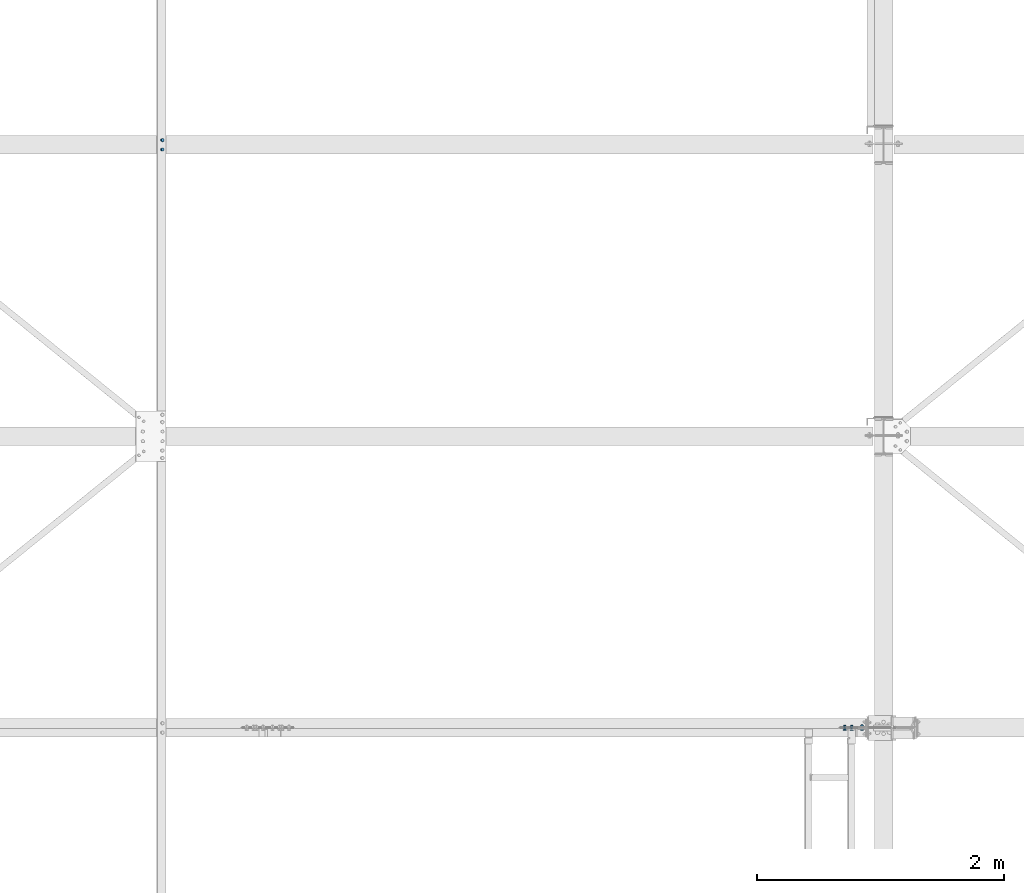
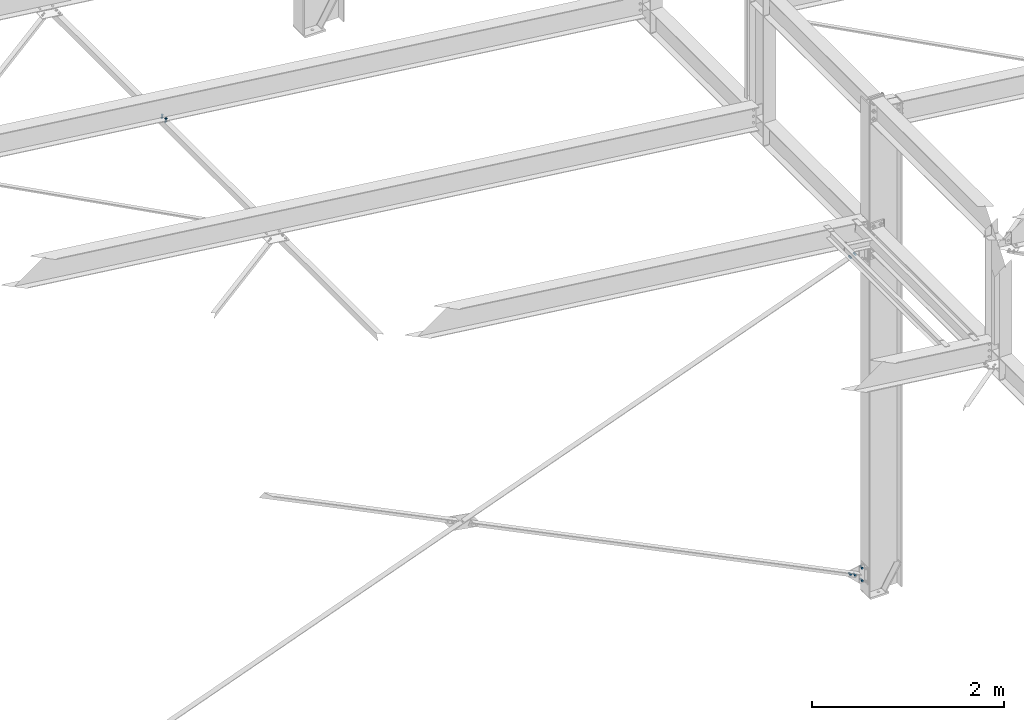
# One storey, part 129 of 3134: 4 mechanical fasteners, 4 elements without a shape of their own.
"""IFC2X3 building model written with IfcOpenShell, lengths in millimetres."""

from ifc_helpers import new_model, si_unit, frame, origin_with_axes, place, context, subcontext, project, spatial, faceted_brep, source, transform, mapped, material, type_object, element, aggregate, save


model = new_model("IFC2X3")

# Units and contexts
model_context = context("Model", 3, precision=1e-05, world=origin_with_axes())
body_context = subcontext(model_context, "Body", "Model", "MODEL_VIEW")
ifc_project = project(units=[si_unit("LENGTHUNIT", "METRE", prefix="MILLI"), si_unit("AREAUNIT", "SQUARE_METRE"), si_unit("VOLUMEUNIT", "CUBIC_METRE"), si_unit("MASSUNIT", "GRAM", prefix="KILO"), si_unit("TIMEUNIT", "SECOND"), si_unit("PLANEANGLEUNIT", "RADIAN"), si_unit("SOLIDANGLEUNIT", "STERADIAN"), si_unit("THERMODYNAMICTEMPERATUREUNIT", "DEGREE_CELSIUS"), si_unit("LUMINOUSINTENSITYUNIT", "LUMEN")], contexts=[model_context])

# Site, building, storey
site_placement = place(None, origin_with_axes())
site = spatial("IfcSite", under=ifc_project, at=site_placement, CompositionType="ELEMENT")
building_placement = place(site_placement, origin_with_axes())
building = spatial("IfcBuilding", under=site, at=building_placement, Name="Undefined", CompositionType="ELEMENT")
storey_placement = place(building_placement, origin_with_axes())
storey = spatial("IfcBuildingStorey", under=building, at=storey_placement, Name="Undefined", CompositionType="ELEMENT", Elevation=0.0)

# Assembly, mechanical fastener
assembly_1_placement = place(storey_placement, origin_with_axes())
assembly_1 = element("IfcElementAssembly", 1, at=assembly_1_placement, inside=storey, AssemblyPlace="NOTDEFINED", PredefinedType="RIGID_FRAME")
ifc_material = material(Name="8.8")
mechanical_fastener_type = type_object("IfcMechanicalFastenerType", Name="Bolt assembly")
shared_shape_1 = source(origin_with_axes(), body_context, "Body", "Brep", [
    faceted_brep([(13.856406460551, -19.199990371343, 0.0), (6.92820323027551, -19.199990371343, 12.0), (-6.92820323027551, -19.199990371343, 12.0), (-13.856406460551, -19.199990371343, 1.69692038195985e-15), (-6.92820323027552, -19.199990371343, -12.0), (6.9282032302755, -19.199990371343, -12.0), (6.9282032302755, -9.19999037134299, -12.0), (-6.92820323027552, -9.19999037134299, -12.0), (-13.856406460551, -9.19999037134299, 1.69692038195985e-15), (-6.92820323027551, -9.19999037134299, 12.0), (6.92820323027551, -9.19999037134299, 12.0), (13.856406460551, -9.19999037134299, 0.0), (8.0, -9.19999037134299, 0.0), (6.92820323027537, -9.19999037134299, 4.00000000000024), (3.99999999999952, -9.19999037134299, 6.92820323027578), (-8.29068785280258e-13, -9.19999037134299, 8.0), (-4.00000000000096, -9.19999037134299, 6.92820323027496), (-6.9282032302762, -9.19999037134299, 3.99999999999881), (-8.0, -9.19999037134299, -1.65813757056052e-12), (-6.92820323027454, -9.19999037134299, -4.00000000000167), (-3.99999999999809, -9.19999037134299, -6.92820323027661), (2.47832457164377e-12, -9.19999037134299, -8.0), (4.00000000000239, -9.19999037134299, -6.92820323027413), (6.92820323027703, -9.19999037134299, -3.99999999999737), (6.92820323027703, 35.8000002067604, -3.99999999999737), (4.00000000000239, 35.8000002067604, -6.92820323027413), (2.47832457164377e-12, 35.8000002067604, -8.0), (-3.99999999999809, 35.8000002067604, -6.92820323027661), (-6.92820323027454, 35.8000002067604, -4.00000000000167), (-8.0, 35.8000002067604, -1.65813757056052e-12), (-6.9282032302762, 35.8000002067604, 3.99999999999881), (-4.00000000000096, 35.8000002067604, 6.92820323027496), (-8.29068785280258e-13, 35.8000002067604, 8.0), (3.99999999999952, 35.8000002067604, 6.92820323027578), (6.92820323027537, 35.8000002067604, 4.00000000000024), (8.0, 35.8000002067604, 0.0), (13.856406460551, 14.9999995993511, 0.0), (6.92820323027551, 14.9999995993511, 12.0), (-6.92820323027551, 14.9999995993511, 12.0), (-13.856406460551, 14.9999995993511, 1.69692038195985e-15), (-6.92820323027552, 14.9999995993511, -12.0), (6.9282032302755, 14.9999995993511, -12.0), (6.9282032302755, 27.9999995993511, -12.0), (-6.92820323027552, 27.9999995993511, -12.0), (-13.856406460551, 27.9999995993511, 1.69692038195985e-15), (-6.92820323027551, 27.9999995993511, 12.0), (6.92820323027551, 27.9999995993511, 12.0), (13.856406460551, 27.9999995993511, 0.0)], [[[0, 1, 2, 3, 4, 5]], [[6, 7, 8, 9, 10, 11]], [[0, 11, 10, 1]], [[1, 10, 9, 2]], [[2, 9, 8, 3]], [[3, 8, 7, 4]], [[4, 7, 6, 5]], [[5, 6, 11, 0]], [[12, 13, 14, 15, 16, 17, 18, 19, 20, 21, 22, 23]], [[24, 25, 26, 27, 28, 29, 30, 31, 32, 33, 34, 35]], [[12, 35, 34, 13]], [[13, 34, 33, 14]], [[14, 33, 32, 15]], [[15, 32, 31, 16]], [[16, 31, 30, 17]], [[17, 30, 29, 18]], [[18, 29, 28, 19]], [[19, 28, 27, 20]], [[20, 27, 26, 21]], [[21, 26, 25, 22]], [[22, 25, 24, 23]], [[23, 24, 35, 12]], [[36, 37, 38, 39, 40, 41]], [[42, 43, 44, 45, 46, 47]], [[36, 47, 46, 37]], [[37, 46, 45, 38]], [[38, 45, 44, 39]], [[39, 44, 43, 40]], [[40, 43, 42, 41]], [[41, 42, 47, 36]]]),
    faceted_brep([(9.0, -9.09999037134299, 0.0), (7.79422863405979, -9.09999037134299, 4.50000000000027), (4.49999999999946, -9.09999037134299, 7.79422863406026), (-9.3270238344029e-13, -9.09999037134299, 9.0), (-4.50000000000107, -9.09999037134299, 7.79422863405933), (-7.79422863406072, -9.09999037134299, 4.49999999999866), (-9.0, -9.09999037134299, -1.86540476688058e-12), (-7.79422863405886, -9.09999037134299, -4.50000000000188), (-4.49999999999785, -9.09999037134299, -7.79422863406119), (2.78811514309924e-12, -9.09999037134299, -9.0), (4.50000000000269, -9.09999037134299, -7.7942286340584), (7.79422863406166, -9.09999037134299, -4.49999999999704), (7.79422863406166, 0.100000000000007, -4.49999999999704), (4.50000000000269, 0.100000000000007, -7.7942286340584), (2.78811514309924e-12, 0.100000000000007, -9.0), (-4.49999999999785, 0.100000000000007, -7.79422863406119), (-7.79422863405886, 0.100000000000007, -4.50000000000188), (-9.0, 0.100000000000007, -1.86540476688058e-12), (-7.79422863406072, 0.100000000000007, 4.49999999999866), (-4.50000000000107, 0.100000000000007, 7.79422863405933), (-9.3270238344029e-13, 0.100000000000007, 9.0), (4.49999999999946, 0.100000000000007, 7.79422863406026), (7.79422863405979, 0.100000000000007, 4.50000000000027), (9.0, 0.100000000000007, 0.0), (9.0, 7.9, 0.0), (7.79422863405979, 7.9, 4.50000000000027), (4.49999999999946, 7.9, 7.79422863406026), (-9.3270238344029e-13, 7.9, 9.0), (-4.50000000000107, 7.9, 7.79422863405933), (-7.79422863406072, 7.9, 4.49999999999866), (-9.0, 7.9, -1.86540476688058e-12), (-7.79422863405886, 7.9, -4.50000000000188), (-4.49999999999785, 7.9, -7.79422863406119), (2.78811514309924e-12, 7.9, -9.0), (4.50000000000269, 7.9, -7.7942286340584), (7.79422863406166, 7.9, -4.49999999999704), (7.79422863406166, 14.9999995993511, -4.49999999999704), (4.50000000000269, 14.9999995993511, -7.7942286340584), (2.78811514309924e-12, 14.9999995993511, -9.0), (-4.49999999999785, 14.9999995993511, -7.79422863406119), (-7.79422863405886, 14.9999995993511, -4.50000000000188), (-9.0, 14.9999995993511, -1.86540476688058e-12), (-7.79422863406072, 14.9999995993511, 4.49999999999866), (-4.50000000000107, 14.9999995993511, 7.79422863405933), (-9.3270238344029e-13, 14.9999995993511, 9.0), (4.49999999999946, 14.9999995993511, 7.79422863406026), (7.79422863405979, 14.9999995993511, 4.50000000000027), (9.0, 14.9999995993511, 0.0)], [[[0, 1, 2, 3, 4, 5, 6, 7, 8, 9, 10, 11]], [[12, 13, 14, 15, 16, 17, 18, 19, 20, 21, 22, 23]], [[0, 23, 22, 1]], [[1, 22, 21, 2]], [[2, 21, 20, 3]], [[3, 20, 19, 4]], [[4, 19, 18, 5]], [[5, 18, 17, 6]], [[6, 17, 16, 7]], [[7, 16, 15, 8]], [[8, 15, 14, 9]], [[9, 14, 13, 10]], [[10, 13, 12, 11]], [[11, 12, 23, 0]], [[24, 25, 26, 27, 28, 29, 30, 31, 32, 33, 34, 35]], [[36, 37, 38, 39, 40, 41, 42, 43, 44, 45, 46, 47]], [[24, 47, 46, 25]], [[25, 46, 45, 26]], [[26, 45, 44, 27]], [[27, 44, 43, 28]], [[28, 43, 42, 29]], [[29, 42, 41, 30]], [[30, 41, 40, 31]], [[31, 40, 39, 32]], [[32, 39, 38, 33]], [[33, 38, 37, 34]], [[34, 37, 36, 35]], [[35, 36, 47, 24]]]),
])
mechanical_fastener_1_placement = place(assembly_1_placement, frame((50037.984961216, 12332.0, 4806.73358921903), z_axis=(-0.992623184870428, 0.0, 0.121240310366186), x_axis=(0.0, 1.0, 0.0)))
mechanical_fastener_1 = element("IfcMechanicalFastener", 2, at=mechanical_fastener_1_placement, type_object=mechanical_fastener_type, material=ifc_material, Name="Bolt assembly", NominalDiameter=16.0, NominalLength=45.0, context=body_context, shape_type="MappedRepresentation", body=[
    mapped(shared_shape_1, transform((0.0, 0.0, 0.0))),
    mapped(shared_shape_1, transform((76.0, 0.0, 0.0))),
])
aggregate(assembly_1, [mechanical_fastener_1])

assembly_2_placement = place(storey_placement, origin_with_axes())
assembly_2 = element("IfcElementAssembly", 3, at=assembly_2_placement, inside=storey, AssemblyPlace="NOTDEFINED", PredefinedType="RIGID_FRAME")
shared_shape_2 = source(origin_with_axes(), body_context, "Body", "Brep", [
    faceted_brep([(13.856406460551, -21.0000017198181, 0.0), (6.92820323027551, -21.0000017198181, 12.0), (-6.92820323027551, -21.0000017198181, 12.0), (-13.856406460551, -21.0000017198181, 1.69692038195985e-15), (-6.92820323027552, -21.0000017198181, -12.0), (6.9282032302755, -21.0000017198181, -12.0), (6.9282032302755, -11.0000017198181, -12.0), (-6.92820323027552, -11.0000017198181, -12.0), (-13.856406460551, -11.0000017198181, 1.69692038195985e-15), (-6.92820323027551, -11.0000017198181, 12.0), (6.92820323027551, -11.0000017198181, 12.0), (13.856406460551, -11.0000017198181, 0.0), (8.0, -11.0000017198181, 0.0), (6.92820323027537, -11.0000017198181, 4.00000000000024), (3.99999999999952, -11.0000017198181, 6.92820323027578), (-8.29068785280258e-13, -11.0000017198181, 8.0), (-4.00000000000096, -11.0000017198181, 6.92820323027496), (-6.9282032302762, -11.0000017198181, 3.99999999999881), (-8.0, -11.0000017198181, -1.65813757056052e-12), (-6.92820323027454, -11.0000017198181, -4.00000000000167), (-3.99999999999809, -11.0000017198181, -6.92820323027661), (2.47832457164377e-12, -11.0000017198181, -8.0), (4.00000000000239, -11.0000017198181, -6.92820323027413), (6.92820323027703, -11.0000017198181, -3.99999999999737), (6.92820323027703, 29.0, -3.99999999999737), (4.00000000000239, 29.0, -6.92820323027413), (2.47832457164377e-12, 29.0, -8.0), (-3.99999999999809, 29.0, -6.92820323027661), (-6.92820323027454, 29.0, -4.00000000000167), (-8.0, 29.0, -1.65813757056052e-12), (-6.9282032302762, 29.0, 3.99999999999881), (-4.00000000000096, 29.0, 6.92820323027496), (-8.29068785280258e-13, 29.0, 8.0), (3.99999999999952, 29.0, 6.92820323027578), (6.92820323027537, 29.0, 4.00000000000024), (8.0, 29.0, 0.0), (13.856406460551, 10.9999982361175, 0.0), (6.92820323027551, 10.9999982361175, 12.0), (-6.92820323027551, 10.9999982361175, 12.0), (-13.856406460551, 10.9999982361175, 1.69692038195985e-15), (-6.92820323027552, 10.9999982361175, -12.0), (6.9282032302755, 10.9999982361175, -12.0), (6.9282032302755, 23.9999999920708, -12.0), (-6.92820323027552, 23.9999999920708, -12.0), (-13.856406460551, 23.9999999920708, 1.69692038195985e-15), (-6.92820323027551, 23.9999999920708, 12.0), (6.92820323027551, 23.9999999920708, 12.0), (13.856406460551, 23.9999999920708, 0.0)], [[[0, 1, 2, 3, 4, 5]], [[6, 7, 8, 9, 10, 11]], [[0, 11, 10, 1]], [[1, 10, 9, 2]], [[2, 9, 8, 3]], [[3, 8, 7, 4]], [[4, 7, 6, 5]], [[5, 6, 11, 0]], [[12, 13, 14, 15, 16, 17, 18, 19, 20, 21, 22, 23]], [[24, 25, 26, 27, 28, 29, 30, 31, 32, 33, 34, 35]], [[12, 35, 34, 13]], [[13, 34, 33, 14]], [[14, 33, 32, 15]], [[15, 32, 31, 16]], [[16, 31, 30, 17]], [[17, 30, 29, 18]], [[18, 29, 28, 19]], [[19, 28, 27, 20]], [[20, 27, 26, 21]], [[21, 26, 25, 22]], [[22, 25, 24, 23]], [[23, 24, 35, 12]], [[36, 37, 38, 39, 40, 41]], [[42, 43, 44, 45, 46, 47]], [[36, 47, 46, 37]], [[37, 46, 45, 38]], [[38, 45, 44, 39]], [[39, 44, 43, 40]], [[40, 43, 42, 41]], [[41, 42, 47, 36]]]),
    faceted_brep([(9.0, -3.99999624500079, 0.0), (7.79422863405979, -3.99999624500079, 4.50000000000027), (4.49999999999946, -3.99999624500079, 7.79422863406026), (-9.3270238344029e-13, -3.99999624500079, 9.0), (-4.50000000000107, -3.99999624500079, 7.79422863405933), (-7.79422863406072, -3.99999624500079, 4.49999999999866), (-9.0, -3.99999624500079, -1.86540476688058e-12), (-7.79422863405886, -3.99999624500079, -4.50000000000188), (-4.49999999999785, -3.99999624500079, -7.79422863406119), (2.78811514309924e-12, -3.99999624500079, -9.0), (4.50000000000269, -3.99999624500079, -7.7942286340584), (7.79422863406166, -3.99999624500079, -4.49999999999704), (7.79422863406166, 4.00000375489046, -4.49999999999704), (4.50000000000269, 4.00000375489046, -7.7942286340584), (2.78811514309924e-12, 4.00000375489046, -9.0), (-4.49999999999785, 4.00000375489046, -7.79422863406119), (-7.79422863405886, 4.00000375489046, -4.50000000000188), (-9.0, 4.00000375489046, -1.86540476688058e-12), (-7.79422863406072, 4.00000375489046, 4.49999999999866), (-4.50000000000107, 4.00000375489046, 7.79422863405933), (-9.3270238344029e-13, 4.00000375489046, 9.0), (4.49999999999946, 4.00000375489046, 7.79422863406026), (7.79422863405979, 4.00000375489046, 4.50000000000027), (9.0, 4.00000375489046, 0.0), (9.0, -10.9000017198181, 0.0), (7.79422863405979, -10.9000017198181, 4.50000000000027), (4.49999999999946, -10.9000017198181, 7.79422863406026), (-9.3270238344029e-13, -10.9000017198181, 9.0), (-4.50000000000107, -10.9000017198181, 7.79422863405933), (-7.79422863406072, -10.9000017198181, 4.49999999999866), (-9.0, -10.9000017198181, -1.86540476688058e-12), (-7.79422863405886, -10.9000017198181, -4.50000000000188), (-4.49999999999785, -10.9000017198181, -7.79422863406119), (2.78811514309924e-12, -10.9000017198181, -9.0), (4.50000000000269, -10.9000017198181, -7.7942286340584), (7.79422863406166, -10.9000017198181, -4.49999999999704), (7.79422863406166, -3.9, -4.49999999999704), (4.50000000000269, -3.9, -7.7942286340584), (2.78811514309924e-12, -3.9, -9.0), (-4.49999999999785, -3.9, -7.79422863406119), (-7.79422863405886, -3.9, -4.50000000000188), (-9.0, -3.9, -1.86540476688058e-12), (-7.79422863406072, -3.9, 4.49999999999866), (-4.50000000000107, -3.9, 7.79422863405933), (-9.3270238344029e-13, -3.9, 9.0), (4.49999999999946, -3.9, 7.79422863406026), (7.79422863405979, -3.9, 4.50000000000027), (9.0, -3.9, 0.0), (9.0, 3.9, 0.0), (7.79422863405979, 3.9, 4.50000000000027), (4.49999999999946, 3.9, 7.79422863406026), (-9.3270238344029e-13, 3.9, 9.0), (-4.50000000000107, 3.9, 7.79422863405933), (-7.79422863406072, 3.9, 4.49999999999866), (-9.0, 3.9, -1.86540476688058e-12), (-7.79422863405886, 3.9, -4.50000000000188), (-4.49999999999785, 3.9, -7.79422863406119), (2.78811514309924e-12, 3.9, -9.0), (4.50000000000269, 3.9, -7.7942286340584), (7.79422863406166, 3.9, -4.49999999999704), (7.79422863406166, 10.9999982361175, -4.49999999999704), (4.50000000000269, 10.9999982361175, -7.7942286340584), (2.78811514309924e-12, 10.9999982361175, -9.0), (-4.49999999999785, 10.9999982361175, -7.79422863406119), (-7.79422863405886, 10.9999982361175, -4.50000000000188), (-9.0, 10.9999982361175, -1.86540476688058e-12), (-7.79422863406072, 10.9999982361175, 4.49999999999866), (-4.50000000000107, 10.9999982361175, 7.79422863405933), (-9.3270238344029e-13, 10.9999982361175, 9.0), (4.49999999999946, 10.9999982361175, 7.79422863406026), (7.79422863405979, 10.9999982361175, 4.50000000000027), (9.0, 10.9999982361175, 0.0)], [[[0, 1, 2, 3, 4, 5, 6, 7, 8, 9, 10, 11]], [[12, 13, 14, 15, 16, 17, 18, 19, 20, 21, 22, 23]], [[0, 23, 22, 1]], [[1, 22, 21, 2]], [[2, 21, 20, 3]], [[3, 20, 19, 4]], [[4, 19, 18, 5]], [[5, 18, 17, 6]], [[6, 17, 16, 7]], [[7, 16, 15, 8]], [[8, 15, 14, 9]], [[9, 14, 13, 10]], [[10, 13, 12, 11]], [[11, 12, 23, 0]], [[24, 25, 26, 27, 28, 29, 30, 31, 32, 33, 34, 35]], [[36, 37, 38, 39, 40, 41, 42, 43, 44, 45, 46, 47]], [[24, 47, 46, 25]], [[25, 46, 45, 26]], [[26, 45, 44, 27]], [[27, 44, 43, 28]], [[28, 43, 42, 29]], [[29, 42, 41, 30]], [[30, 41, 40, 31]], [[31, 40, 39, 32]], [[32, 39, 38, 33]], [[33, 38, 37, 34]], [[34, 37, 36, 35]], [[35, 36, 47, 24]], [[48, 49, 50, 51, 52, 53, 54, 55, 56, 57, 58, 59]], [[60, 61, 62, 63, 64, 65, 66, 67, 68, 69, 70, 71]], [[48, 71, 70, 49]], [[49, 70, 69, 50]], [[50, 69, 68, 51]], [[51, 68, 67, 52]], [[52, 67, 66, 53]], [[53, 66, 65, 54]], [[54, 65, 64, 55]], [[55, 64, 63, 56]], [[56, 63, 62, 57]], [[57, 62, 61, 58]], [[58, 61, 60, 59]], [[59, 60, 71, 48]]]),
])
mechanical_fastener_2_placement = place(assembly_2_placement, frame((55699.9999999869, 7650.0, -30.0), z_axis=(1.0, 0.0, 0.0), x_axis=(0.0, 0.0, -1.0)))
mechanical_fastener_2 = element("IfcMechanicalFastener", 4, at=mechanical_fastener_2_placement, type_object=mechanical_fastener_type, material=ifc_material, Name="Bolt assembly", NominalDiameter=16.0, NominalLength=40.0, context=body_context, shape_type="MappedRepresentation", body=[
    mapped(shared_shape_2, transform((0.0, 0.0, 0.0))),
    mapped(shared_shape_2, transform((160.0, 0.0, 0.0))),
])
aggregate(assembly_2, [mechanical_fastener_2])

assembly_3_placement = place(storey_placement, origin_with_axes())
assembly_3 = element("IfcElementAssembly", 5, at=assembly_3_placement, inside=storey, AssemblyPlace="NOTDEFINED", PredefinedType="RIGID_FRAME")
shared_shape_3 = source(origin_with_axes(), body_context, "Body", "Brep", [
    faceted_brep([(13.856406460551, -21.0000017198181, 0.0), (6.92820323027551, -21.0000017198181, 12.0), (-6.92820323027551, -21.0000017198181, 12.0), (-13.856406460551, -21.0000017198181, 1.69692038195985e-15), (-6.92820323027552, -21.0000017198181, -12.0), (6.9282032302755, -21.0000017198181, -12.0), (6.9282032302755, -11.0000017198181, -12.0), (-6.92820323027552, -11.0000017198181, -12.0), (-13.856406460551, -11.0000017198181, 1.69692038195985e-15), (-6.92820323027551, -11.0000017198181, 12.0), (6.92820323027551, -11.0000017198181, 12.0), (13.856406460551, -11.0000017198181, 0.0), (8.0, -11.0000017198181, 0.0), (6.92820323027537, -11.0000017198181, 4.00000000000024), (3.99999999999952, -11.0000017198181, 6.92820323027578), (-8.29068785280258e-13, -11.0000017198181, 8.0), (-4.00000000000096, -11.0000017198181, 6.92820323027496), (-6.9282032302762, -11.0000017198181, 3.99999999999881), (-8.0, -11.0000017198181, -1.65813757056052e-12), (-6.92820323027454, -11.0000017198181, -4.00000000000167), (-3.99999999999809, -11.0000017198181, -6.92820323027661), (2.47832457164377e-12, -11.0000017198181, -8.0), (4.00000000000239, -11.0000017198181, -6.92820323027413), (6.92820323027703, -11.0000017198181, -3.99999999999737), (6.92820323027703, 23.9999999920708, -3.99999999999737), (4.00000000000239, 23.9999999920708, -6.92820323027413), (2.47832457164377e-12, 23.9999999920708, -8.0), (-3.99999999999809, 23.9999999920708, -6.92820323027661), (-6.92820323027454, 23.9999999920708, -4.00000000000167), (-8.0, 23.9999999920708, -1.65813757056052e-12), (-6.9282032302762, 23.9999999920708, 3.99999999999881), (-4.00000000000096, 23.9999999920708, 6.92820323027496), (-8.29068785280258e-13, 23.9999999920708, 8.0), (3.99999999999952, 23.9999999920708, 6.92820323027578), (6.92820323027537, 23.9999999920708, 4.00000000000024), (8.0, 23.9999999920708, 0.0), (13.856406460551, 3.99999999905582, 0.0), (6.92820323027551, 3.99999999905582, 12.0), (-6.92820323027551, 3.99999999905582, 12.0), (-13.856406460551, 3.99999999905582, 1.69692038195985e-15), (-6.92820323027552, 3.99999999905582, -12.0), (6.9282032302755, 3.99999999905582, -12.0), (6.9282032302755, 16.9999999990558, -12.0), (-6.92820323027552, 16.9999999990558, -12.0), (-13.856406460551, 16.9999999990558, 1.69692038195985e-15), (-6.92820323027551, 16.9999999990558, 12.0), (6.92820323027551, 16.9999999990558, 12.0), (13.856406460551, 16.9999999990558, 0.0)], [[[0, 1, 2, 3, 4, 5]], [[6, 7, 8, 9, 10, 11]], [[0, 11, 10, 1]], [[1, 10, 9, 2]], [[2, 9, 8, 3]], [[3, 8, 7, 4]], [[4, 7, 6, 5]], [[5, 6, 11, 0]], [[12, 13, 14, 15, 16, 17, 18, 19, 20, 21, 22, 23]], [[24, 25, 26, 27, 28, 29, 30, 31, 32, 33, 34, 35]], [[12, 35, 34, 13]], [[13, 34, 33, 14]], [[14, 33, 32, 15]], [[15, 32, 31, 16]], [[16, 31, 30, 17]], [[17, 30, 29, 18]], [[18, 29, 28, 19]], [[19, 28, 27, 20]], [[20, 27, 26, 21]], [[21, 26, 25, 22]], [[22, 25, 24, 23]], [[23, 24, 35, 12]], [[36, 37, 38, 39, 40, 41]], [[42, 43, 44, 45, 46, 47]], [[36, 47, 46, 37]], [[37, 46, 45, 38]], [[38, 45, 44, 39]], [[39, 44, 43, 40]], [[40, 43, 42, 41]], [[41, 42, 47, 36]]]),
    faceted_brep([(9.0, -4.10000000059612, 0.0), (7.79422863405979, -4.10000000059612, 4.50000000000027), (4.49999999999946, -4.10000000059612, 7.79422863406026), (-9.3270238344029e-13, -4.10000000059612, 9.0), (-4.50000000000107, -4.10000000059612, 7.79422863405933), (-7.79422863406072, -4.10000000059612, 4.49999999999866), (-9.0, -4.10000000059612, -1.86540476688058e-12), (-7.79422863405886, -4.10000000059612, -4.50000000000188), (-4.49999999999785, -4.10000000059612, -7.79422863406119), (2.78811514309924e-12, -4.10000000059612, -9.0), (4.50000000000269, -4.10000000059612, -7.7942286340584), (7.79422863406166, -4.10000000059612, -4.49999999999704), (7.79422863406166, 4.00000375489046, -4.49999999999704), (4.50000000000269, 4.00000375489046, -7.7942286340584), (2.78811514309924e-12, 4.00000375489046, -9.0), (-4.49999999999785, 4.00000375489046, -7.79422863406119), (-7.79422863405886, 4.00000375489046, -4.50000000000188), (-9.0, 4.00000375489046, -1.86540476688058e-12), (-7.79422863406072, 4.00000375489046, 4.49999999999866), (-4.50000000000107, 4.00000375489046, 7.79422863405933), (-9.3270238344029e-13, 4.00000375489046, 9.0), (4.49999999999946, 4.00000375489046, 7.79422863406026), (7.79422863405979, 4.00000375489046, 4.50000000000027), (9.0, 4.00000375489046, 0.0), (9.0, -10.9000017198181, 0.0), (7.79422863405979, -10.9000017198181, 4.50000000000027), (4.49999999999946, -10.9000017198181, 7.79422863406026), (-9.3270238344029e-13, -10.9000017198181, 9.0), (-4.50000000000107, -10.9000017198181, 7.79422863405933), (-7.79422863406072, -10.9000017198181, 4.49999999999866), (-9.0, -10.9000017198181, -1.86540476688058e-12), (-7.79422863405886, -10.9000017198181, -4.50000000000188), (-4.49999999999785, -10.9000017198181, -7.79422863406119), (2.78811514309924e-12, -10.9000017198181, -9.0), (4.50000000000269, -10.9000017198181, -7.7942286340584), (7.79422863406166, -10.9000017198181, -4.49999999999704), (7.79422863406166, -3.9, -4.49999999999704), (4.50000000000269, -3.9, -7.7942286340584), (2.78811514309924e-12, -3.9, -9.0), (-4.49999999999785, -3.9, -7.79422863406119), (-7.79422863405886, -3.9, -4.50000000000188), (-9.0, -3.9, -1.86540476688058e-12), (-7.79422863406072, -3.9, 4.49999999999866), (-4.50000000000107, -3.9, 7.79422863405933), (-9.3270238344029e-13, -3.9, 9.0), (4.49999999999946, -3.9, 7.79422863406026), (7.79422863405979, -3.9, 4.50000000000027), (9.0, -3.9, 0.0)], [[[0, 1, 2, 3, 4, 5, 6, 7, 8, 9, 10, 11]], [[12, 13, 14, 15, 16, 17, 18, 19, 20, 21, 22, 23]], [[0, 23, 22, 1]], [[1, 22, 21, 2]], [[2, 21, 20, 3]], [[3, 20, 19, 4]], [[4, 19, 18, 5]], [[5, 18, 17, 6]], [[6, 17, 16, 7]], [[7, 16, 15, 8]], [[8, 15, 14, 9]], [[9, 14, 13, 10]], [[10, 13, 12, 11]], [[11, 12, 23, 0]], [[24, 25, 26, 27, 28, 29, 30, 31, 32, 33, 34, 35]], [[36, 37, 38, 39, 40, 41, 42, 43, 44, 45, 46, 47]], [[24, 47, 46, 25]], [[25, 46, 45, 26]], [[26, 45, 44, 27]], [[27, 44, 43, 28]], [[28, 43, 42, 29]], [[29, 42, 41, 30]], [[30, 41, 40, 31]], [[31, 40, 39, 32]], [[32, 39, 38, 33]], [[33, 38, 37, 34]], [[34, 37, 36, 35]], [[35, 36, 47, 24]]]),
])
mechanical_fastener_3_placement = place(assembly_3_placement, frame((55561.8498392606, 7650.0, 3964.23125956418), z_axis=(-0.347634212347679, 0.0, 0.937630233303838), x_axis=(0.937630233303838, 0.0, 0.347634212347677)))
mechanical_fastener_3 = element("IfcMechanicalFastener", 6, at=mechanical_fastener_3_placement, type_object=mechanical_fastener_type, material=ifc_material, Name="Bolt assembly", NominalDiameter=16.0, NominalLength=35.0, context=body_context, shape_type="MappedRepresentation", body=[
    mapped(shared_shape_3, transform((0.0, 0.0, 0.0))),
    mapped(shared_shape_3, transform((59.9999999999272, 0.0, 5.40239852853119e-10))),
])
aggregate(assembly_3, [mechanical_fastener_3])

assembly_4_placement = place(storey_placement, origin_with_axes())
assembly_4 = element("IfcElementAssembly", 7, at=assembly_4_placement, inside=storey, AssemblyPlace="NOTDEFINED", PredefinedType="RIGID_FRAME")
mechanical_fastener_4_placement = place(assembly_4_placement, frame((55560.4935776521, 7650.0, -61.8091525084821), z_axis=(0.440953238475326, 0.0, 0.897530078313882), x_axis=(0.897530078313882, 0.0, -0.440953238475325)))
mechanical_fastener_4 = element("IfcMechanicalFastener", 8, at=mechanical_fastener_4_placement, type_object=mechanical_fastener_type, material=ifc_material, Name="Bolt assembly", NominalDiameter=16.0, NominalLength=35.0, context=body_context, shape_type="MappedRepresentation", body=[
    mapped(shared_shape_3, transform((0.0, 0.0, 0.0))),
    mapped(shared_shape_3, transform((59.9999999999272, 0.0, 5.40239852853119e-10))),
])
aggregate(assembly_4, [mechanical_fastener_4])

save(model, "model.ifc")
